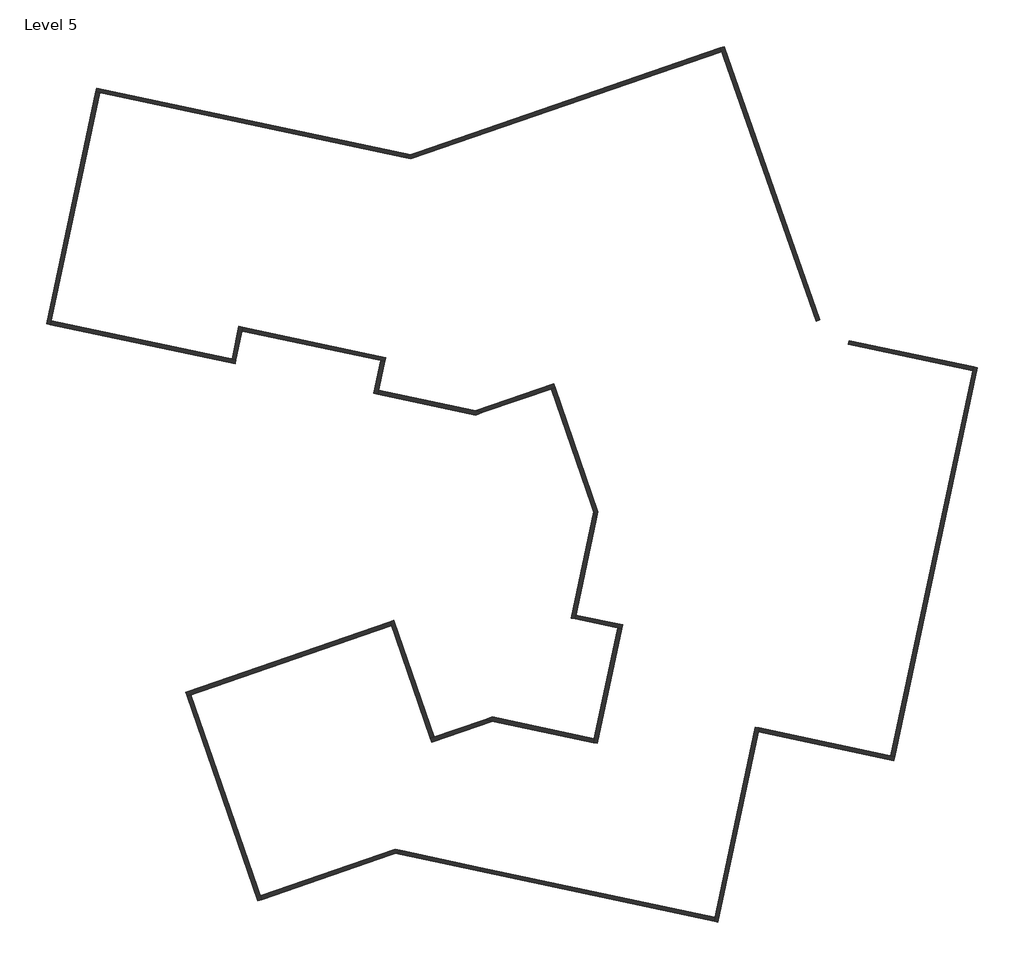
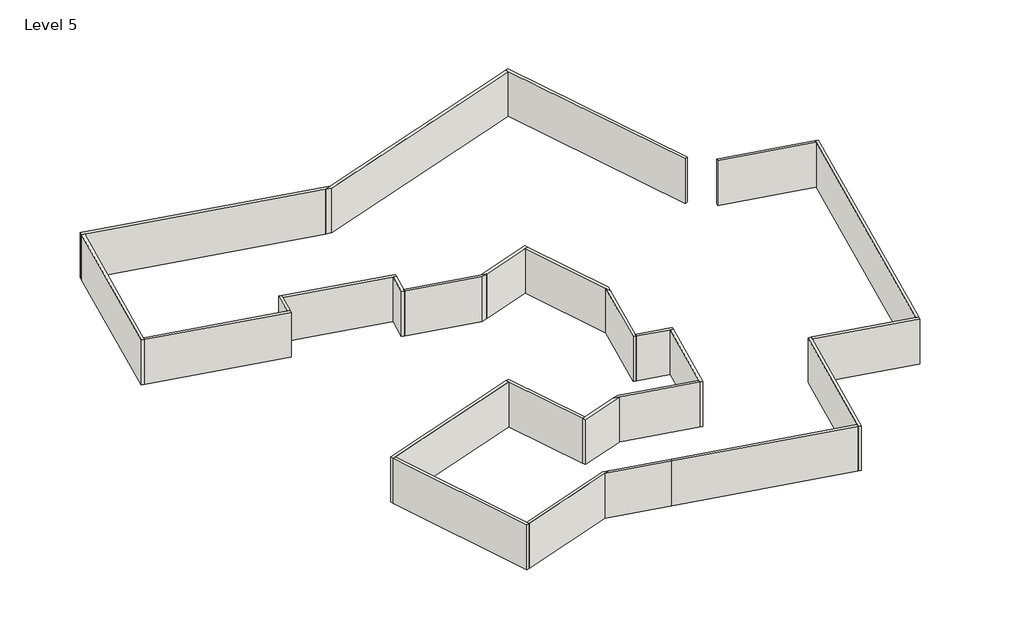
# One storey: 26 walls.
"""IFC4 building model written with IfcOpenShell, lengths in millimetres."""

from ifc_helpers import new_model, si_unit, frame, origin, place, context, project, spatial, polyline, outline, extrude, faceted_brep, element, save

model = new_model("IFC4")

# Units and contexts
model_context = context("Model", 3, world=origin())
ifc_project = project(units=[si_unit("LENGTHUNIT", "METRE", prefix="MILLI")], contexts=[model_context])

# Site, building, storey
site = spatial("IfcSite", under=ifc_project)
building = spatial("IfcBuilding", under=site)
storey = spatial("IfcBuildingStorey", under=building, Name="Level 5", Elevation=-5000.0)

# Walls
placement = place(None, origin())
element("IfcWall", 1, ObjectType="0.3", at=placement, inside=storey, context=model_context, shape_type="Brep", body=[
    faceted_brep([(495911.4257826, 38108.8077884, -5000.0), (496010.5421593, 37825.6514807, -5000.0), (503053.599813, 17704.9986993, -5000.0), (503053.599813, 17704.9986993, 0.0), (496010.5421593, 37825.6514807, 0.0), (495911.4257826, 38108.8077884, 0.0), (496194.9910677, 38206.747973, -5000.0), (496194.9910677, 38206.747973, 0.0), (503336.7536813, 17804.1142221, 0.0), (503336.7536813, 17804.1142221, -5000.0)], [[[0, 1, 2, 3, 4, 5]], [[6, 7, 8, 9]], [[2, 1, 0, 6, 9]], [[3, 2, 9, 8]], [[5, 4, 3, 8, 7]], [[0, 5, 7, 6]]]),
])
element("IfcWall", 2, ObjectType="0.3", at=placement, inside=storey, context=model_context, shape_type="Brep", body=[
    faceted_brep([(472802.0140944, 29809.693103, -5000.0), (496010.5421593, 37825.6514807, -5000.0), (496010.5421593, 37825.6514807, 0.0), (472802.0140944, 29809.693103, 0.0), (472233.1588566, 29930.6070164, -5000.0), (472233.1588566, 29930.6070164, 0.0), (472782.8584723, 30120.4669346, 0.0), (495911.4257826, 38108.8077884, 0.0), (495911.4257826, 38108.8077884, -5000.0), (472782.8584723, 30120.4669346, -5000.0)], [[[0, 1, 2, 3]], [[4, 5, 6, 7, 8, 9]], [[1, 0, 4, 9, 8]], [[3, 2, 7, 6, 5]], [[2, 1, 8, 7]], [[0, 3, 5, 4]]]),
])
element("IfcWall", 3, ObjectType="0.3", at=placement, inside=storey, context=model_context, shape_type="Brep", body=[
    faceted_brep([(449263.665578, 34812.923531, -5000.0), (449557.1098582, 34750.5500238, -5000.0), (472233.1588566, 29930.6070164, -5000.0), (472233.1588566, 29930.6070164, 0.0), (449557.1098582, 34750.5500238, 0.0), (449263.665578, 34812.923531, 0.0), (449326.0390852, 35106.3678112, -5000.0), (449326.0390852, 35106.3678112, 0.0), (472782.8584723, 30120.4669346, 0.0), (472782.8584723, 30120.4669346, -5000.0)], [[[0, 1, 2, 3, 4, 5]], [[6, 7, 8, 9]], [[2, 1, 0, 6, 9]], [[5, 4, 3, 8, 7]], [[3, 2, 9, 8]], [[0, 5, 7, 6]]]),
])
element("IfcWall", 4, ObjectType="0.3", at=placement, inside=storey, context=model_context, shape_type="Brep", body=[
    faceted_brep([(449263.665578, 34812.923531, -5000.0), (445583.1164203, 17497.3011443, -5000.0), (445583.1164203, 17497.3011443, 0.0), (449263.665578, 34812.923531, 0.0), (449557.1098582, 34750.5500238, -5000.0), (449557.1098582, 34750.5500238, 0.0), (445938.9342078, 17728.3719172, 0.0), (445876.5607005, 17434.927637, 0.0), (445876.5607005, 17434.927637, -5000.0), (445938.9342078, 17728.3719172, -5000.0)], [[[0, 1, 2, 3]], [[4, 5, 6, 7, 8, 9]], [[1, 0, 4, 9, 8]], [[3, 2, 7, 6, 5]], [[0, 3, 5, 4]], [[2, 1, 8, 7]]]),
])
element("IfcWall", 5, ObjectType="0.3", at=placement, inside=storey, context=model_context, shape_type="Brep", body=[
    faceted_brep([(459729.2939973, 14797.1404562, -5000.0), (459435.8497171, 14859.5139634, -5000.0), (445938.9342078, 17728.3719172, -5000.0), (445938.9342078, 17728.3719172, 0.0), (459435.8497171, 14859.5139634, 0.0), (459729.2939973, 14797.1404562, 0.0), (459666.92049, 14503.696176, -5000.0), (459666.92049, 14503.696176, 0.0), (445876.5607005, 17434.927637, 0.0), (445876.5607005, 17434.927637, -5000.0)], [[[0, 1, 2, 3, 4, 5]], [[6, 7, 8, 9]], [[2, 1, 0, 6, 9]], [[5, 4, 3, 8, 7]], [[3, 2, 9, 8]], [[0, 5, 7, 6]]]),
])
element("IfcWall", 6, ObjectType="0.3", at=placement, inside=storey, context=model_context, shape_type="Brep", body=[
    faceted_brep([(459955.6289441, 17304.8829653, -5000.0), (459435.8497171, 14859.5139634, -5000.0), (459435.8497171, 14859.5139634, 0.0), (459955.6289441, 17304.8829653, 0.0), (460249.0732243, 17242.509458, -5000.0), (460249.0732243, 17242.509458, 0.0), (460186.6997171, 16949.0651778, 0.0), (459729.2939973, 14797.1404562, 0.0), (459729.2939973, 14797.1404562, -5000.0), (460186.6997171, 16949.0651778, -5000.0)], [[[0, 1, 2, 3]], [[4, 5, 6, 7, 8, 9]], [[1, 0, 4, 9, 8]], [[3, 2, 7, 6, 5]], [[2, 1, 8, 7]], [[0, 3, 5, 4]]]),
])
element("IfcWall", 7, ObjectType="0.3", at=placement, inside=storey, context=model_context, shape_type="Brep", body=[
    faceted_brep([(460186.6997171, 16949.0651778, -5000.0), (470544.6215674, 14747.4209232, -5000.0), (470838.0658476, 14685.047416, -5000.0), (470838.0658476, 14685.047416, 0.0), (470544.6215674, 14747.4209232, 0.0), (460186.6997171, 16949.0651778, 0.0), (460249.0732243, 17242.509458, -5000.0), (460249.0732243, 17242.509458, 0.0), (470900.4393549, 14978.4916962, 0.0), (470900.4393549, 14978.4916962, -5000.0)], [[[0, 1, 2, 3, 4, 5]], [[6, 7, 8, 9]], [[2, 1, 0, 6, 9]], [[5, 4, 3, 8, 7]], [[0, 5, 7, 6]], [[3, 2, 9, 8]]]),
])
element("IfcWall", 8, ObjectType="0.3", at=placement, inside=storey, context=model_context, shape_type="Brep", body=[
    faceted_brep([(470544.6215674, 14747.4209232, -5000.0), (470024.8423404, 12302.0519214, -5000.0), (470024.8423404, 12302.0519214, 0.0), (470544.6215674, 14747.4209232, 0.0), (470838.0658476, 14685.047416, -5000.0), (470838.0658476, 14685.047416, 0.0), (470380.6601278, 12533.1226944, 0.0), (470318.2866206, 12239.6784142, 0.0), (470318.2866206, 12239.6784142, -5000.0), (470380.6601278, 12533.1226944, -5000.0)], [[[0, 1, 2, 3]], [[4, 5, 6, 7, 8, 9]], [[1, 0, 4, 9, 8]], [[3, 2, 7, 6, 5]], [[0, 3, 5, 4]], [[2, 1, 8, 7]]]),
])
element("IfcWall", 9, ObjectType="0.3", at=placement, inside=storey, context=model_context, shape_type="Brep", body=[
    faceted_brep([(478179.6122647, 10875.4042435, -5000.0), (477610.7570269, 10996.318157, -5000.0), (470380.6601278, 12533.1226944, -5000.0), (470380.6601278, 12533.1226944, 0.0), (477610.7570269, 10996.318157, 0.0), (478179.6122647, 10875.4042435, 0.0), (477629.912649, 10685.5443254, -5000.0), (477629.912649, 10685.5443254, 0.0), (470318.2866206, 12239.6784142, 0.0), (470318.2866206, 12239.6784142, -5000.0)], [[[0, 1, 2, 3, 4, 5]], [[6, 7, 8, 9]], [[2, 1, 0, 6, 9]], [[5, 4, 3, 8, 7]], [[3, 2, 9, 8]], [[0, 5, 7, 6]]]),
])
element("IfcWall", 10, ObjectType="0.3", at=placement, inside=storey, context=model_context, shape_type="Brep", body=[
    faceted_brep([(483465.5074474, 13018.4815424, -5000.0), (477610.7570269, 10996.318157, -5000.0), (477610.7570269, 10996.318157, 0.0), (483465.5074474, 13018.4815424, 0.0), (483563.4467882, 12734.9187002, -5000.0), (483563.4467882, 12734.9187002, 0.0), (483279.883946, 12636.9793593, 0.0), (478179.6122647, 10875.4042435, 0.0), (478179.6122647, 10875.4042435, -5000.0), (483279.883946, 12636.9793593, -5000.0)], [[[0, 1, 2, 3]], [[4, 5, 6, 7, 8, 9]], [[1, 0, 4, 9, 8]], [[3, 2, 7, 6, 5]], [[2, 1, 8, 7]], [[0, 3, 5, 4]]]),
])
element("IfcWall", 11, ObjectType="0.3", at=placement, inside=storey, context=model_context, shape_type="Brep", body=[
    faceted_brep([(486760.764421, 3477.7553622, -5000.0), (483563.4467882, 12734.9187002, -5000.0), (483563.4467882, 12734.9187002, 0.0), (486760.764421, 3477.7553622, 0.0), (486639.8505076, 2908.9001244, -5000.0), (486639.8505076, 2908.9001244, 0.0), (486449.9905894, 3458.5997401, 0.0), (483279.883946, 12636.9793593, 0.0), (483279.883946, 12636.9793593, -5000.0), (486449.9905894, 3458.5997401, -5000.0)], [[[0, 1, 2, 3]], [[4, 5, 6, 7, 8, 9]], [[1, 0, 4, 9, 8]], [[3, 2, 7, 6, 5]], [[2, 1, 8, 7]], [[0, 3, 5, 4]]]),
])
element("IfcWall", 12, ObjectType="0.3", at=placement, inside=storey, context=model_context, shape_type="Brep", body=[
    faceted_brep([(485055.8770826, -4543.1089434, -5000.0), (485118.2505898, -4249.6646632, -5000.0), (486639.8505076, 2908.9001244, -5000.0), (486639.8505076, 2908.9001244, 0.0), (485118.2505898, -4249.6646632, 0.0), (485055.8770826, -4543.1089434, 0.0), (484762.4328024, -4480.7354362, -5000.0), (484762.4328024, -4480.7354362, 0.0), (486449.9905894, 3458.5997401, 0.0), (486449.9905894, 3458.5997401, -5000.0)], [[[0, 1, 2, 3, 4, 5]], [[6, 7, 8, 9]], [[2, 1, 0, 6, 9]], [[5, 4, 3, 8, 7]], [[3, 2, 9, 8]], [[0, 5, 7, 6]]]),
])
element("IfcWall", 13, ObjectType="0.3", at=placement, inside=storey, context=model_context, shape_type="Brep", body=[
    faceted_brep([(488606.8961588, -4991.1991702, -5000.0), (485118.2505898, -4249.6646632, -5000.0), (485118.2505898, -4249.6646632, 0.0), (488606.8961588, -4991.1991702, 0.0), (488544.5226516, -5284.6434505, -5000.0), (488544.5226516, -5284.6434505, 0.0), (488251.0783713, -5222.2699432, 0.0), (485055.8770826, -4543.1089434, 0.0), (485055.8770826, -4543.1089434, -5000.0), (488251.0783713, -5222.2699432, -5000.0)], [[[0, 1, 2, 3]], [[4, 5, 6, 7, 8, 9]], [[1, 0, 4, 9, 8]], [[3, 2, 7, 6, 5]], [[2, 1, 8, 7]], [[0, 3, 5, 4]]]),
])
element("IfcWall", 14, ObjectType="0.3", at=placement, inside=storey, context=model_context, shape_type="Brep", body=[
    faceted_brep([(486725.7559239, -13841.2681596, -5000.0), (488544.5226516, -5284.6434505, -5000.0), (488544.5226516, -5284.6434505, 0.0), (486725.7559239, -13841.2681596, 0.0), (486432.3116437, -13778.8946523, -5000.0), (486432.3116437, -13778.8946523, 0.0), (486494.6851509, -13485.4503721, 0.0), (488251.0783713, -5222.2699432, 0.0), (488251.0783713, -5222.2699432, -5000.0), (486494.6851509, -13485.4503721, -5000.0)], [[[0, 1, 2, 3]], [[4, 5, 6, 7, 8, 9]], [[1, 0, 4, 9, 8]], [[3, 2, 7, 6, 5]], [[2, 1, 8, 7]], [[0, 3, 5, 4]]]),
])
element("IfcWall", 15, ObjectType="0.3", at=placement, inside=storey, context=model_context, shape_type="Brep", body=[
    faceted_brep([(478325.0792486, -12055.6492098, -5000.0), (478893.9344864, -12176.5631232, -5000.0), (486432.3116437, -13778.8946523, -5000.0), (486432.3116437, -13778.8946523, 0.0), (478893.9344864, -12176.5631232, 0.0), (478325.0792486, -12055.6492098, 0.0), (478874.7788643, -11865.7892916, -5000.0), (478874.7788643, -11865.7892916, 0.0), (486494.6851509, -13485.4503721, 0.0), (486494.6851509, -13485.4503721, -5000.0)], [[[0, 1, 2, 3, 4, 5]], [[6, 7, 8, 9]], [[2, 1, 0, 6, 9]], [[5, 4, 3, 8, 7]], [[3, 2, 9, 8]], [[0, 5, 7, 6]]]),
])
element("IfcWall", 16, ObjectType="0.3", at=placement, inside=storey, context=model_context, shape_type="Brep", body=[
    faceted_brep([(474344.7425526, -13747.8016392, -5000.0), (478893.9344864, -12176.5631232, -5000.0), (478893.9344864, -12176.5631232, 0.0), (474344.7425526, -13747.8016392, 0.0), (474246.8032117, -13464.2387969, -5000.0), (474246.8032117, -13464.2387969, 0.0), (474530.366054, -13366.299456, 0.0), (478325.0792486, -12055.6492098, 0.0), (478325.0792486, -12055.6492098, -5000.0), (474530.366054, -13366.299456, -5000.0)], [[[0, 1, 2, 3]], [[4, 5, 6, 7, 8, 9]], [[1, 0, 4, 9, 8]], [[3, 2, 7, 6, 5]], [[2, 1, 8, 7]], [[0, 3, 5, 4]]]),
])
element("IfcWall", 17, ObjectType="0.3", at=placement, inside=storey, context=model_context, shape_type="Brep", body=[
    faceted_brep([(471239.3373805, -4756.7515747, -5000.0), (471337.2767214, -5040.314417, -5000.0), (474246.8032117, -13464.2387969, -5000.0), (474246.8032117, -13464.2387969, 0.0), (471337.2767214, -5040.314417, 0.0), (471239.3373805, -4756.7515747, 0.0), (471522.9002228, -4658.8122338, -5000.0), (471522.9002228, -4658.8122338, 0.0), (474530.366054, -13366.299456, 0.0), (474530.366054, -13366.299456, -5000.0)], [[[0, 1, 2, 3, 4, 5]], [[6, 7, 8, 9]], [[2, 1, 0, 6, 9]], [[5, 4, 3, 8, 7]], [[3, 2, 9, 8]], [[0, 5, 7, 6]]]),
])
element("IfcWall", 18, ObjectType="0.3", at=placement, inside=storey, context=model_context, shape_type="Brep", body=[
    faceted_brep([(456087.7703038, -10307.3183555, -5000.0), (456371.3331461, -10209.3790146, -5000.0), (471337.2767214, -5040.314417, -5000.0), (471337.2767214, -5040.314417, 0.0), (456371.3331461, -10209.3790146, 0.0), (456087.7703038, -10307.3183555, 0.0), (455989.830963, -10023.7555132, -5000.0), (455989.830963, -10023.7555132, 0.0), (471239.3373805, -4756.7515747, 0.0), (471239.3373805, -4756.7515747, -5000.0)], [[[0, 1, 2, 3, 4, 5]], [[6, 7, 8, 9]], [[2, 1, 0, 6, 9]], [[5, 4, 3, 8, 7]], [[3, 2, 9, 8]], [[0, 5, 7, 6]]]),
])
element("IfcWall", 19, ObjectType="0.3", at=placement, inside=storey, context=model_context, shape_type="Brep", body=[
    faceted_brep([(461654.8754918, -25506.7689254, -5000.0), (461556.936151, -25223.2060831, -5000.0), (456371.3331461, -10209.3790146, -5000.0), (456371.3331461, -10209.3790146, 0.0), (461556.936151, -25223.2060831, 0.0), (461654.8754918, -25506.7689254, 0.0), (461371.3126496, -25604.7082662, -5000.0), (461371.3126496, -25604.7082662, 0.0), (456087.7703038, -10307.3183555, 0.0), (456087.7703038, -10307.3183555, -5000.0)], [[[0, 1, 2, 3, 4, 5]], [[6, 7, 8, 9]], [[2, 1, 0, 6, 9]], [[5, 4, 3, 8, 7]], [[3, 2, 9, 8]], [[0, 5, 7, 6]]]),
])
element("IfcWall", 20, ObjectType="0.3", at=placement, inside=storey, context=model_context, shape_type="Brep", body=[
    faceted_brep([(471608.90392, -21751.372151, -5000.0), (461556.936151, -25223.2060831, -5000.0), (461556.936151, -25223.2060831, 0.0), (471608.90392, -21751.372151, 0.0), (472177.7591578, -21872.2860644, -5000.0), (472177.7591578, -21872.2860644, 0.0), (471628.0595421, -22062.1459826, 0.0), (461654.8754918, -25506.7689254, 0.0), (461654.8754918, -25506.7689254, -5000.0), (471628.0595421, -22062.1459826, -5000.0)], [[[0, 1, 2, 3]], [[4, 5, 6, 7, 8, 9]], [[1, 0, 4, 9, 8]], [[3, 2, 7, 6, 5]], [[2, 1, 8, 7]], [[0, 3, 5, 4]]]),
])
element("IfcWall", 21, ObjectType="0.3", at=placement, inside=storey, context=model_context, shape_type="Brep", body=[
    faceted_brep([(477933.7056051, -23403.2403369, -5000.0), (495435.8881194, -27123.4440738, -5000.0), (495435.8881194, -27123.4440738, 0.0), (477933.7056051, -23403.2403369, 0.0), (477996.0791123, -23109.7960566, -5000.0), (477996.0791123, -23109.7960566, 0.0), (495498.2616267, -26829.9997936, 0.0), (495498.2616267, -26829.9997936, -5000.0), (477933.8658406, -23402.486488, -5000.0), (477933.8658406, -23402.486488, 0.0)], [[[0, 1, 2, 3]], [[4, 5, 6, 7]], [[1, 0, 8, 4, 7]], [[2, 1, 7, 6]], [[3, 2, 6, 5, 9]], [[0, 3, 9, 5, 4, 8]]]),
])
element("IfcWall", 22, ObjectType="0.3", at=placement, inside=storey, context=model_context, shape_type="Brep", body=[
    faceted_brep([(471628.0595421, -22062.1459826, -5000.0), (477933.8658406, -23402.486488, -5000.0), (477933.8658406, -23402.486488, 0.0), (471628.0595421, -22062.1459826, 0.0), (472177.7591578, -21872.2860644, -5000.0), (472177.7591578, -21872.2860644, 0.0), (477996.2393478, -23109.0422077, 0.0), (477996.2393478, -23109.0422077, -5000.0), (477996.0791123, -23109.7960566, -5000.0), (477996.0791123, -23109.7960566, 0.0)], [[[0, 1, 2, 3]], [[4, 5, 6, 7]], [[1, 0, 4, 7, 8]], [[2, 1, 8, 7, 6, 9]], [[3, 2, 9, 6, 5]], [[0, 3, 5, 4]]]),
])
element("IfcWall", 23, ObjectType="0.3", at=placement, inside=storey, context=model_context, shape_type="Brep", body=[
    faceted_brep([(495729.3323996, -27185.8175811, -5000.0), (498749.0349033, -12979.2342607, -5000.0), (498811.4084105, -12685.7899805, -5000.0), (498811.4084105, -12685.7899805, 0.0), (498749.0349033, -12979.2342607, 0.0), (495729.3323996, -27185.8175811, 0.0), (495435.8881194, -27123.4440738, -5000.0), (495435.8881194, -27123.4440738, 0.0), (498517.9641303, -12623.4164732, 0.0), (498517.9641303, -12623.4164732, -5000.0)], [[[0, 1, 2, 3, 4, 5]], [[6, 7, 8, 9]], [[2, 1, 0, 6, 9]], [[5, 4, 3, 8, 7]], [[0, 5, 7, 6]], [[3, 2, 9, 8]]]),
])
element("IfcWall", 24, ObjectType="0.3", at=placement, inside=storey, context=model_context, shape_type="Brep", body=[
    faceted_brep([(498749.0349033, -12979.2342607, -5000.0), (508872.8625709, -15131.1202607, -5000.0), (508872.8625709, -15131.1202607, 0.0), (498749.0349033, -12979.2342607, 0.0), (498811.4084105, -12685.7899805, -5000.0), (498811.4084105, -12685.7899805, 0.0), (508641.7917979, -14775.3024732, 0.0), (508935.2360781, -14837.6759804, 0.0), (508935.2360781, -14837.6759804, -5000.0), (508641.7917979, -14775.3024732, -5000.0)], [[[0, 1, 2, 3]], [[4, 5, 6, 7, 8, 9]], [[1, 0, 4, 9, 8]], [[3, 2, 7, 6, 5]], [[0, 3, 5, 4]], [[2, 1, 8, 7]]]),
])
element("IfcWall", 25, ObjectType="0.3", at=placement, inside=storey, context=model_context, shape_type="Brep", body=[
    faceted_brep([(508935.2360781, -14837.6759804, -5000.0), (515110.2132954, 14213.3077614, -5000.0), (515110.2132954, 14213.3077614, 0.0), (508935.2360781, -14837.6759804, 0.0), (508641.7917979, -14775.3024732, -5000.0), (508641.7917979, -14775.3024732, 0.0), (514754.395508, 13982.2369884, 0.0), (514816.7690152, 14275.6812686, 0.0), (514816.7690152, 14275.6812686, -5000.0), (514754.395508, 13982.2369884, -5000.0)], [[[0, 1, 2, 3]], [[4, 5, 6, 7, 8, 9]], [[1, 0, 4, 9, 8]], [[3, 2, 7, 6, 5]], [[0, 3, 5, 4]], [[2, 1, 8, 7]]]),
])
element("IfcWall", 26, ObjectType="0.3", at=placement, inside=storey, context=model_context, shape_type="SweptSolid", body=[
    extrude(outline(polyline([(514754.395508, 13982.2369884), (505472.2794835, 15955.2116556), (505534.6529907, 16248.6559358), (514816.7690152, 14275.6812686), (514754.395508, 13982.2369884)])), frame((0.0, 0.0, -5000.0), z_axis=(0.0, 0.0, 1.0), x_axis=(1.0, 0.0, 0.0)), (0.0, 0.0, 1.0), 5000.0),
])

save(model, "model.ifc")
